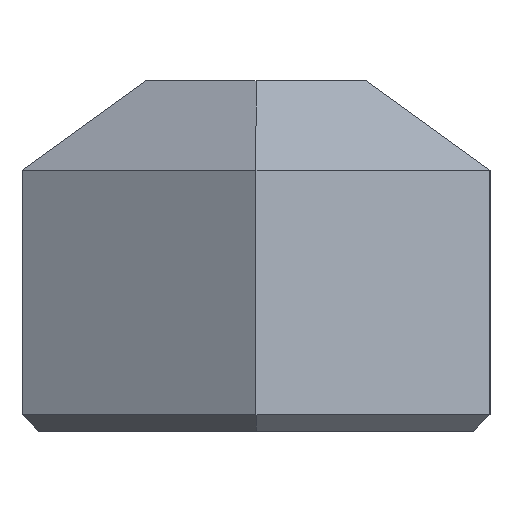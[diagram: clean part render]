
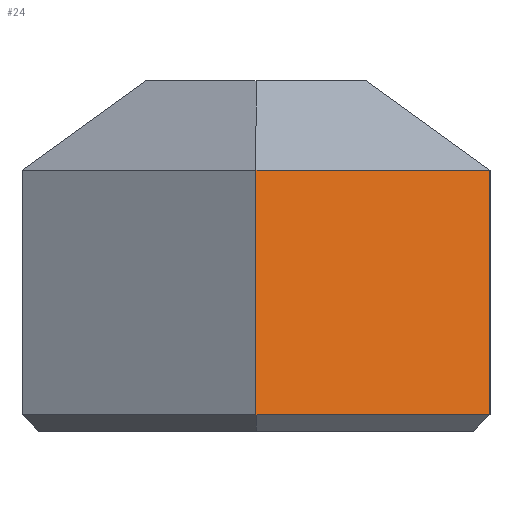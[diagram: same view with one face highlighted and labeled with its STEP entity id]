
A CAD part, left-side view. The second image highlights one B-rep face of the part: STEP entity #24.
In plain terms, the highlighted planar face has unit normal (-0.866, -0.5, 0).
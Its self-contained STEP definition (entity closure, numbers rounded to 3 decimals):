
#24=ADVANCED_FACE('',(#44),#276,.T.);
#44=FACE_OUTER_BOUND('',#64,.T.);
#64=EDGE_LOOP('',(#118,#119,#120,#121));
#118=ORIENTED_EDGE('',*,*,#172,.T.);
#119=ORIENTED_EDGE('',*,*,#167,.F.);
#120=ORIENTED_EDGE('',*,*,#160,.F.);
#121=ORIENTED_EDGE('',*,*,#161,.T.);
#160=EDGE_CURVE('',#248,#253,#202,.T.);
#161=EDGE_CURVE('',#248,#260,#203,.T.);
#167=EDGE_CURVE('',#253,#261,#209,.T.);
#172=EDGE_CURVE('',#260,#261,#214,.T.);
#202=B_SPLINE_CURVE_WITH_KNOTS('',1,(#468,#469),.UNSPECIFIED.,.F.,.F.,(2,
2),(0.,10.507),.UNSPECIFIED.);
#203=B_SPLINE_CURVE_WITH_KNOTS('',1,(#470,#471),.UNSPECIFIED.,.F.,.F.,(2,
2),(31.943,41.033),.UNSPECIFIED.);
#209=B_SPLINE_CURVE_WITH_KNOTS('',1,(#482,#483),.UNSPECIFIED.,.F.,.F.,(2,
2),(31.943,41.033),.UNSPECIFIED.);
#214=B_SPLINE_CURVE_WITH_KNOTS('',1,(#492,#493),.UNSPECIFIED.,.F.,.F.,(2,
2),(0.,10.034),.UNSPECIFIED.);
#248=VERTEX_POINT('',#446);
#253=VERTEX_POINT('',#451);
#260=VERTEX_POINT('',#458);
#261=VERTEX_POINT('',#459);
#276=PLANE('',#384);
#384=AXIS2_PLACEMENT_3D('',#430,#407,$);
#407=DIRECTION('',(-0.866,-0.5,0.));
#430=CARTESIAN_POINT('',(5.017,-26.068,15.69));
#446=CARTESIAN_POINT('',(5.017,-26.068,15.69));
#451=CARTESIAN_POINT('',(10.034,-34.758,15.69));
#458=CARTESIAN_POINT('',(5.017,-26.068,6.6));
#459=CARTESIAN_POINT('',(10.034,-34.758,6.6));
#468=CARTESIAN_POINT('',(5.017,-26.068,15.69));
#469=CARTESIAN_POINT('',(10.034,-34.758,15.69));
#470=CARTESIAN_POINT('',(5.017,-26.068,15.69));
#471=CARTESIAN_POINT('',(5.017,-26.068,6.6));
#482=CARTESIAN_POINT('',(10.034,-34.758,15.69));
#483=CARTESIAN_POINT('',(10.034,-34.758,6.6));
#492=CARTESIAN_POINT('',(5.017,-26.068,6.6));
#493=CARTESIAN_POINT('',(10.034,-34.758,6.6));
